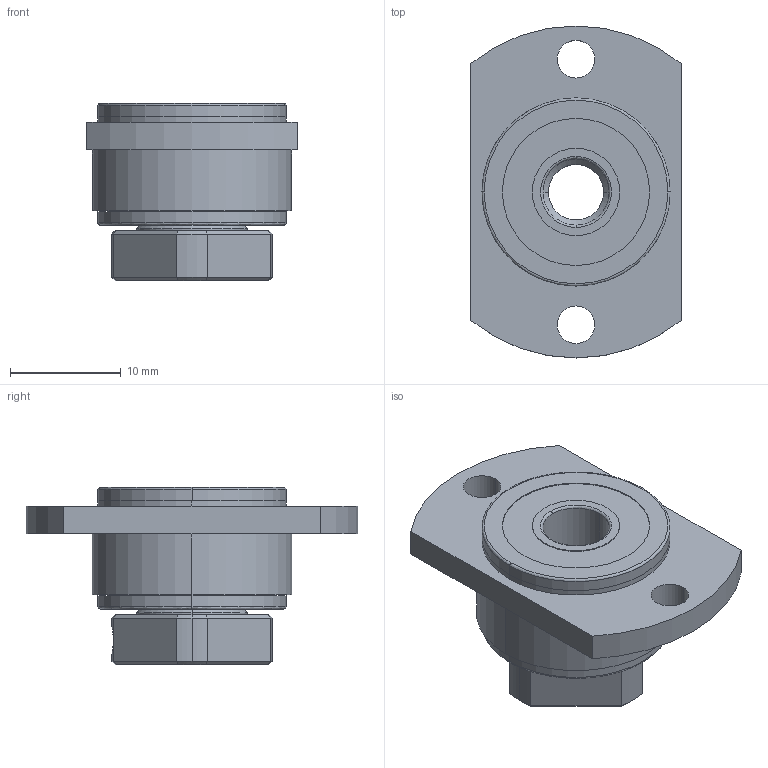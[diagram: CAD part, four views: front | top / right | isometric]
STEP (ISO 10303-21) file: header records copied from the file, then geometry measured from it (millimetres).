
FILE_DESCRIPTION (( 'STEP AP203' ), '1' );
FILE_NAME ('WBK06.STEP', '2009-05-26T10:15:28', ( '冠犁泅' ), ( '俺惯何' ), 'SwSTEP 2.0', 'SolidWorks 2007', '' );
FILE_SCHEMA (( 'CONFIG_CONTROL_DESIGN' ));
Length unit declared in the file: millimetre
Products named in the file (5): K06_BODY_晦獄 撲薑; F696ZZ1_ル遽; K06_SPACER_晦獄 撲薑; WBK06; K06_LOCK NUT(SFK6)_晦獄 撲薑
Assembly tree (5 placements, depth 2):
  WBK06
    K06_BODY_晦獄 撲薑
    K06_SPACER_晦獄 撲薑
    K06_LOCK NUT(SFK6)_晦獄 撲薑
    F696ZZ1_ル遽  x2
Bounding box: 19 x 30 x 16 mm (x, y, z)
Volume: 1843.9 mm3; surface area: 5394.1 mm2
Topology: 3 solids, 25 shells, 224 faces, 532 edges, 307 vertices
Faces by surface type: cylinder 87, bspline 68, plane 45, cone 24
Entity records: 6028 total; most frequent: CARTESIAN_POINT 2320, DIRECTION 697, ORIENTED_EDGE 616, EDGE_CURVE 312, AXIS2_PLACEMENT_3D 299, VERTEX_POINT 203, EDGE_LOOP 177, CIRCLE 175
